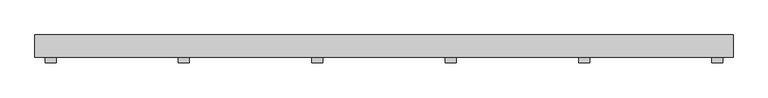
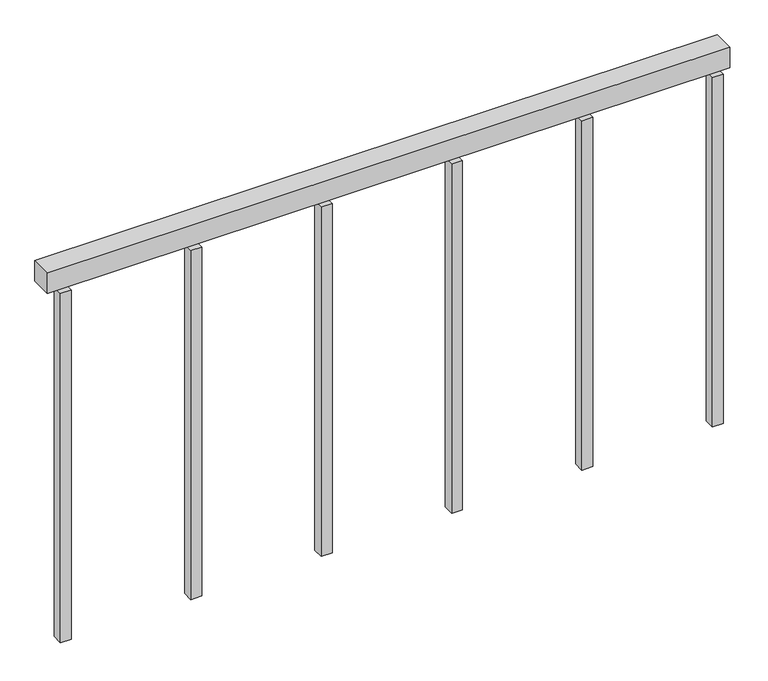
"""IFC4 building model written with IfcOpenShell, lengths in millimetres: railing geometry, ADSK_Стандартное_h 900 Поручень квадратный без направляющих."""

from ifc_helpers import new_model, si_unit, frame, origin, place, context, project, spatial, polyline, outline, extrude, source, transform, mapped, element, save


def railing_28907bea(model_context):
    return source(origin(), model_context, "Body", "SweptSolid", [
        extrude(outline(polyline([(-1591.9240021, 16544.0362632), (-1591.9240021, 16494.0362632), (-3162.3240021, 16494.0362632), (-3162.3240021, 16544.0362632), (-1591.9240021, 16544.0362632)])), frame((0.0, 0.0, 4500.0), z_axis=(0.0, 0.0, 1.0), x_axis=(1.0, 0.0, 0.0)), (0.0, 0.0, 1.0), 50.0),
        extrude(outline(polyline([(-3114.6240021, 16506.5362632), (-3114.6240021, 16481.5362632), (-3139.6240021, 16481.5362632), (-3139.6240021, 16506.5362632), (-3114.6240021, 16506.5362632)])), frame((0.0, 0.0, 3650.0), z_axis=(0.0, 0.0, 1.0), x_axis=(1.0, 0.0, 0.0)), (0.0, 0.0, 1.0), 850.0),
        extrude(outline(polyline([(-2814.6240021, 16506.5362632), (-2814.6240021, 16481.5362632), (-2839.6240021, 16481.5362632), (-2839.6240021, 16506.5362632), (-2814.6240021, 16506.5362632)])), frame((0.0, 0.0, 3650.0), z_axis=(0.0, 0.0, 1.0), x_axis=(1.0, 0.0, 0.0)), (0.0, 0.0, 1.0), 850.0),
        extrude(outline(polyline([(-2514.6240021, 16506.5362632), (-2514.6240021, 16481.5362632), (-2539.6240021, 16481.5362632), (-2539.6240021, 16506.5362632), (-2514.6240021, 16506.5362632)])), frame((0.0, 0.0, 3650.0), z_axis=(0.0, 0.0, 1.0), x_axis=(1.0, 0.0, 0.0)), (0.0, 0.0, 1.0), 850.0),
        extrude(outline(polyline([(-2214.6240021, 16506.5362632), (-2214.6240021, 16481.5362632), (-2239.6240021, 16481.5362632), (-2239.6240021, 16506.5362632), (-2214.6240021, 16506.5362632)])), frame((0.0, 0.0, 3650.0), z_axis=(0.0, 0.0, 1.0), x_axis=(1.0, 0.0, 0.0)), (0.0, 0.0, 1.0), 850.0),
        extrude(outline(polyline([(-1914.6240021, 16506.5362632), (-1914.6240021, 16481.5362632), (-1939.6240021, 16481.5362632), (-1939.6240021, 16506.5362632), (-1914.6240021, 16506.5362632)])), frame((0.0, 0.0, 3650.0), z_axis=(0.0, 0.0, 1.0), x_axis=(1.0, 0.0, 0.0)), (0.0, 0.0, 1.0), 850.0),
        extrude(outline(polyline([(-1614.6240021, 16506.5362632), (-1614.6240021, 16481.5362632), (-1639.6240021, 16481.5362632), (-1639.6240021, 16506.5362632), (-1614.6240021, 16506.5362632)])), frame((0.0, 0.0, 3650.0), z_axis=(0.0, 0.0, 1.0), x_axis=(1.0, 0.0, 0.0)), (0.0, 0.0, 1.0), 850.0),
    ])


if __name__ == "__main__":
    model = new_model("IFC4")
    model_context = context("Model", 3, world=origin())
    ifc_project = project(units=[si_unit("LENGTHUNIT", "METRE", prefix="MILLI")], contexts=[model_context])
    site = spatial("IfcSite", under=ifc_project)
    building = spatial("IfcBuilding", under=site)
    placement = place(None, origin())
    railing_shape = railing_28907bea(model_context)
    element("IfcRailing", 1, ObjectType="ADSK_Стандартное_h 900 Поручень квадратный без направляющих", at=placement, inside=building, context=model_context, shape_type="MappedRepresentation", body=[
        mapped(railing_shape, transform((0.0, 0.0, 0.0), x_axis=(1.0, 0.0, 0.0), y_axis=(0.0, 1.0, 0.0), z_axis=(0.0, 0.0, 1.0))),
    ])
    save(model, "model.ifc")
